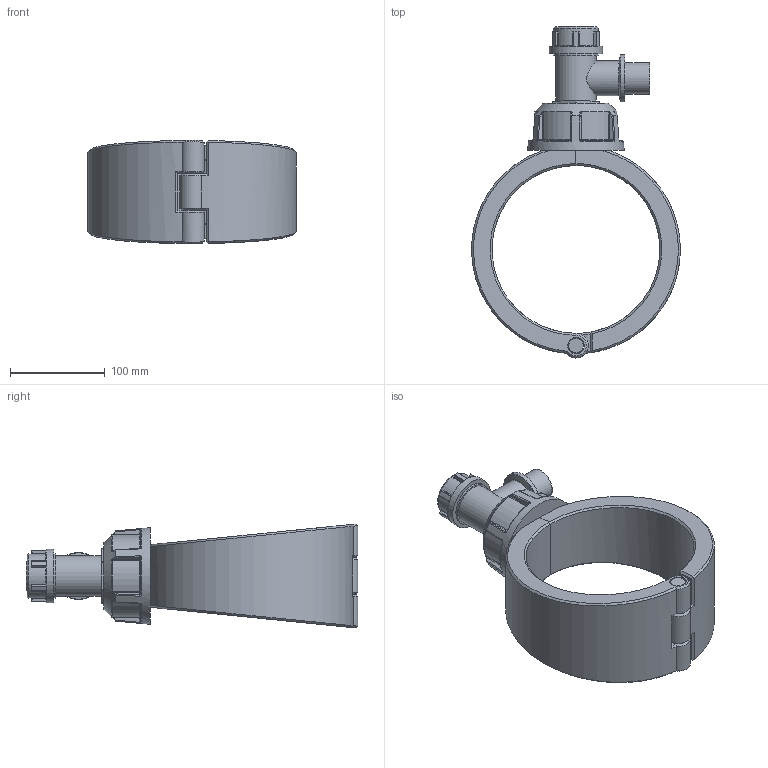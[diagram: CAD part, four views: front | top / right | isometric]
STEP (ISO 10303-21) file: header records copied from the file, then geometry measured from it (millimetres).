
FILE_DESCRIPTION(/* description */ ('Plassadle Tapper Male 177x1'''''),/* implementation_level */ '2;1');
FILE_NAME(/* name */ 'C:\Users\comp2\Dropbox\99-16-3568-Processing\Mechanical Fittings\1631R\stp\1631R0177010.stp',/* time_stamp */ '2022-02-03T12:06:58+00:00',/* author */ ('comp2'),/* organization */ (''),/* preprocessor_version */ 'ST-DEVELOPER v17.2',/* originating_system */ 'Autodesk Inventor 2019',/* authorisation */ '');
FILE_SCHEMA (('AUTOMOTIVE_DESIGN { 1 0 10303 214 3 1 1 }'));
Length unit declared in the file: millimetre
Products named in the file (1): 1631R0177010
Bounding box: 219.87 x 349.99 x 109.6 mm (x, y, z)
Volume: 1632586 mm3; surface area: 203902.3 mm2
Topology: 4 solids, 4 shells, 341 faces, 833 edges, 509 vertices
Faces by surface type: cylinder 110, plane 82, bspline 70, torus 40, sphere 24, cone 15
Full cylindrical faces by diameter (mm): 15.3 x1, 17.3 x3, 24.937 x1, 30.6 x1, 33.249 x1, 36.574 x1, 42.84 x1, 46.84 x2, 49.873 x1, 56.1 x1
Entity records: 13201 total; most frequent: CARTESIAN_POINT 5563, ORIENTED_EDGE 1666, DIRECTION 1492, EDGE_CURVE 833, AXIS2_PLACEMENT_3D 627, VERTEX_POINT 509, EDGE_LOOP 356, FACE_OUTER_BOUND 341
